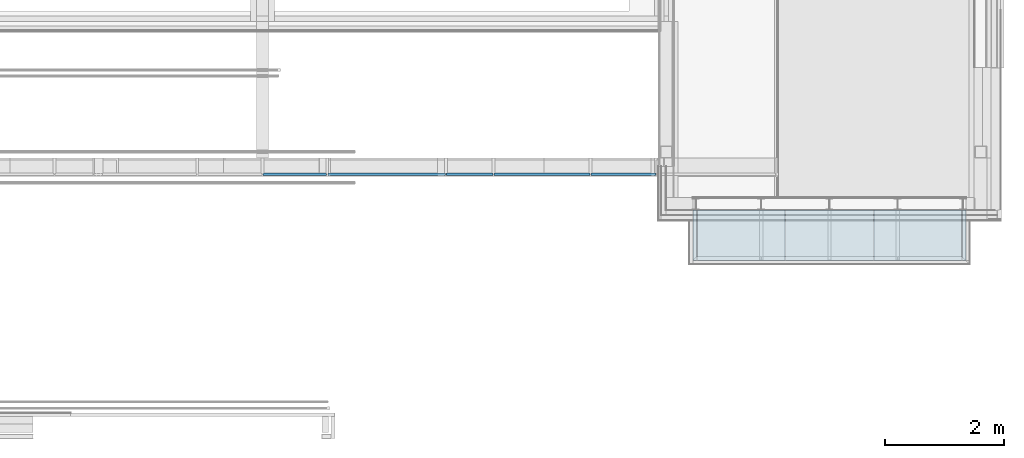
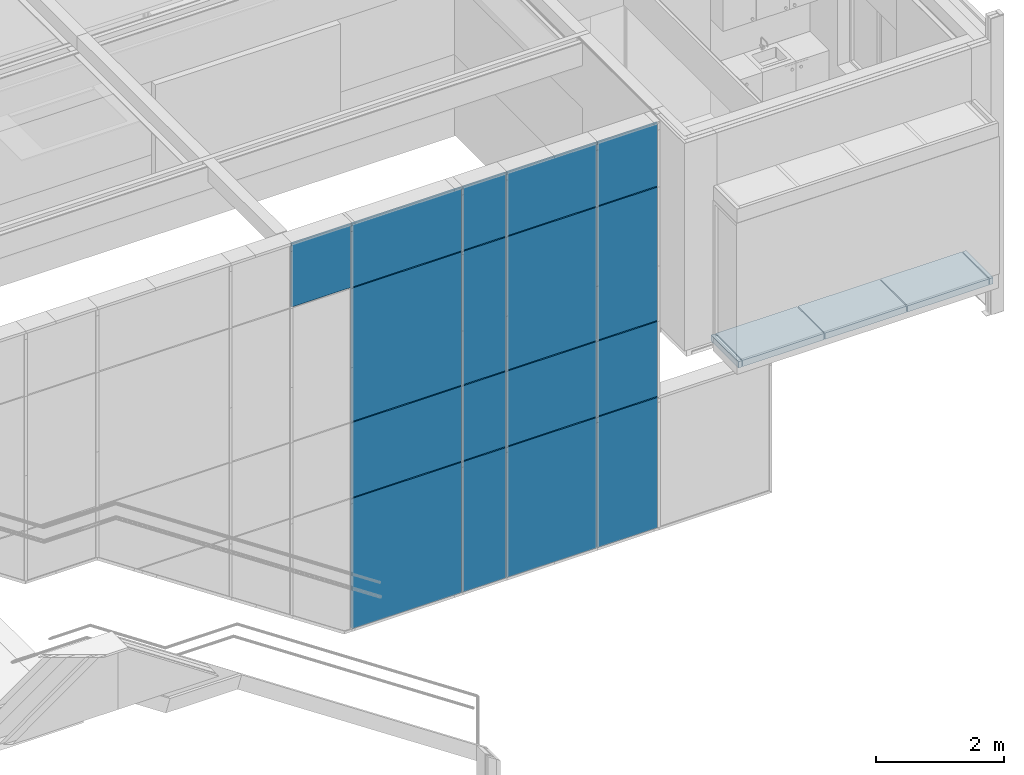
# One storey, part 37 of 137: 17 plates, 1 slab, 1 element without a shape of its own.
"""IFC2X3 building model written with IfcOpenShell, lengths in millimetres."""

import ifcopenshell
import ifcopenshell.guid

model = None  # the IFC model being written
_history = None  # IfcOwnerHistory: only IFC2X3 demands one
_inside = {}  # id of a spatial element -> (the spatial element, [elements in it])
_under = {}  # id of a project, library or spatial element -> (it, [spatial elements below it])
_declared = {}  # id of a project -> (the project, [libraries it declares])
_typed = {}  # id of a type object -> (the type object, [elements of that type])
_made_of = {}  # id of a material, layer set ... -> (it, [elements and type objects made of it])


def new_model(schema):
    """Start an empty IFC model of exactly this schema.

    Asked for "IFC4X3", IfcOpenShell would pick the latest addendum, in which some entities
    have other attributes; the version numbers below select the first issue.
    IFC2X3 requires an IfcOwnerHistory on every rooted entity: one is made here for all.
    """
    global model, _history
    if schema == "IFC4X3":
        model = ifcopenshell.file(schema_version=(4, 3, 0, 0))
    else:
        model = ifcopenshell.file(schema=schema)
    _inside.clear()
    _under.clear()
    _declared.clear()
    _typed.clear()
    _made_of.clear()
    _history = None
    if model.schema == "IFC2X3":
        org = make("IfcOrganization", Name="unknown")
        user = make(
            "IfcPersonAndOrganization",
            ThePerson=make("IfcPerson", FamilyName="unknown"),
            TheOrganization=org,
        )
        app = make(
            "IfcApplication",
            ApplicationDeveloper=org,
            Version="unknown",
            ApplicationFullName="unknown",
            ApplicationIdentifier="unknown",
        )
        _history = make(
            "IfcOwnerHistory",
            OwningUser=user,
            OwningApplication=app,
            ChangeAction="ADDED",
            CreationDate=0,
        )
    return model


def make(cls, **values):
    """One entity of the class cls with the attributes given. An attribute that is None is left unset."""
    return model.create_entity(
        cls, **{name: value for name, value in values.items() if value is not None}
    )


def entity(cls, *values):
    """Any entity or typed value of the class cls, its attributes in the order of the schema. None: left unset."""
    e = model.create_entity(cls)
    for i, value in enumerate(values):
        if value is not None:
            e[i] = value
    return e


def rooted(cls, **values):
    """An entity with a GlobalId (a new one), such as an element, a storey or a relation."""
    return make(cls, GlobalId=ifcopenshell.guid.new(), OwnerHistory=_history, **values)


def si_unit(unit_type, name, prefix=None):
    """IfcSIUnit, for example si_unit("LENGTHUNIT", "METRE", prefix="MILLI")."""
    return make("IfcSIUnit", UnitType=unit_type, Prefix=prefix, Name=name)


def converted_unit(unit_type, name, factor, base, dimensions=None, offset=None):
    """IfcConversionBasedUnit, such as the inch: factor (a typed value) times the base unit."""
    return make(
        "IfcConversionBasedUnit"
        if offset is None
        else "IfcConversionBasedUnitWithOffset",
        ConversionOffset=offset,
        Dimensions=None
        if dimensions is None
        else entity("IfcDimensionalExponents", *dimensions),
        UnitType=unit_type,
        Name=name,
        ConversionFactor=make(
            "IfcMeasureWithUnit", ValueComponent=factor, UnitComponent=base
        ),
    )


def derived_unit(unit_type, elements):
    """IfcDerivedUnit: a product of units, each with its exponent."""
    return make(
        "IfcDerivedUnit",
        Elements=[
            make("IfcDerivedUnitElement", Unit=unit, Exponent=power)
            for unit, power in elements
        ],
        UnitType=unit_type,
    )


def money_unit(currency):
    """IfcMonetaryUnit."""
    return make("IfcMonetaryUnit", Currency=currency)


def assignment(units):
    """IfcUnitAssignment: the units of a project."""
    return None if units is None else make("IfcUnitAssignment", Units=units)


def point(xyz):
    """IfcCartesianPoint."""
    return None if xyz is None else make("IfcCartesianPoint", Coordinates=xyz)


def direction(xyz):
    """IfcDirection."""
    return None if xyz is None else make("IfcDirection", DirectionRatios=xyz)


def frame(location, z_axis=None, x_axis=None):
    """IfcAxis2Placement3D, a coordinate frame: its origin and axes. An axis left out is left unset."""
    return make(
        "IfcAxis2Placement3D",
        Location=point(location),
        Axis=direction(z_axis),
        RefDirection=direction(x_axis),
    )


def origin_with_axes():
    """The frame at (0, 0, 0) with the z axis (0, 0, 1) and the x axis (1, 0, 0) written out."""
    return frame((0.0, 0.0, 0.0), z_axis=(0.0, 0.0, 1.0), x_axis=(1.0, 0.0, 0.0))


def place(relative_to, where):
    """IfcLocalPlacement: puts the frame where relative to a parent placement (None: the world)."""
    return make(
        "IfcLocalPlacement", PlacementRelTo=relative_to, RelativePlacement=where
    )


def context(
    kind, dimensions, precision=None, world=None, true_north=None, identifier=None
):
    """IfcGeometricRepresentationContext, for example the 3D "Model" context."""
    return make(
        "IfcGeometricRepresentationContext",
        ContextIdentifier=identifier,
        ContextType=kind,
        CoordinateSpaceDimension=dimensions,
        Precision=precision,
        WorldCoordinateSystem=world,
        TrueNorth=true_north,
    )


def subcontext(parent, identifier, kind, view, scale=None):
    """IfcGeometricRepresentationSubContext, for example "Body" below "Model"."""
    return make(
        "IfcGeometricRepresentationSubContext",
        ContextIdentifier=identifier,
        ContextType=kind,
        ParentContext=parent,
        TargetScale=scale,
        TargetView=view,
    )


def project(units=None, contexts=None):
    """IfcProject with its units and contexts."""
    return rooted(
        "IfcProject",
        Name="project",
        RepresentationContexts=contexts,
        UnitsInContext=assignment(units),
    )


def spatial(cls, under=None, at=None, **own):
    """A site, building, storey or space (cls), placed at a placement, below another one or the project."""
    s = rooted(cls, ObjectPlacement=at, **own)
    if under is not None:
        _under.setdefault(under.id(), (under, []))[1].append(s)
    return s


def faces_of(points, faces, orient=None, outer=None):
    """IfcFace entities. A face is a list of loops; a loop is a list of indices into points, from 0.

    orient and outer hold one flag for each loop. By default every Orientation is true, the
    first loop of a face is its IfcFaceOuterBound and the others are IfcFaceBound.
    """
    made = []
    for i, loops in enumerate(faces):
        bounds = []
        for j, loop in enumerate(loops):
            is_outer = j == 0 if outer is None else outer[i][j]
            bounds.append(
                make(
                    "IfcFaceOuterBound" if is_outer else "IfcFaceBound",
                    Bound=make("IfcPolyLoop", Polygon=[points[k] for k in loop]),
                    Orientation=True if orient is None else orient[i][j],
                )
            )
        made.append(make("IfcFace", Bounds=bounds))
    return made


def faceted_brep(points, faces, orient=None, outer=None, voids=None):
    """IfcFacetedBrep: a solid bounded by flat faces; with voids (closed shells), ...WithVoids."""
    shared = [point(p) for p in points]
    hull = make("IfcClosedShell", CfsFaces=faces_of(shared, faces, orient, outer))
    if voids is None:
        return make("IfcFacetedBrep", Outer=hull)
    return make(
        "IfcFacetedBrepWithVoids",
        Outer=hull,
        Voids=[
            make(cls, CfsFaces=faces_of(shared, fs, o, b)) for cls, fs, o, b in voids
        ],
    )


def shape(context_of_items, identifier, shape_type, items):
    """IfcShapeRepresentation: the items that make up one representation, for example the "Body"."""
    return make(
        "IfcShapeRepresentation",
        ContextOfItems=context_of_items,
        RepresentationIdentifier=identifier,
        RepresentationType=shape_type,
        Items=items,
    )


def material(Name=None, Category=None):
    """IfcMaterial."""
    return make("IfcMaterial", Name=Name, Category=Category)


def made_of(thing, what):
    """Note that an element or type object is made of a material, layer set ...; save() writes the relation."""
    if what is not None:
        _made_of.setdefault(what.id(), (what, []))[1].append(thing)
    return thing


def type_object(cls, material=None, **own):
    """A type object (cls), such as IfcWallType, which elements share."""
    return made_of(rooted(cls, **own), material)


def element(
    cls,
    number,
    at=None,
    inside=None,
    cuts=None,
    type_object=None,
    material=None,
    context=None,
    identifier="Body",
    shape_type=None,
    held_by="IfcProductDefinitionShape",
    body=None,
    shapes=None,
    **own,
):
    """One element of the class cls, such as IfcWall. Its Tag is "e" and its number.

    at: its placement. inside: the storey or other place that contains it. cuts: it is an
    opening in that element (IfcRelVoidsElement). A single representation is given by context,
    identifier, shape_type and body (its items); several are given by shapes. held_by: the class
    of the entity that holds the representations. save() writes the other relations.
    """
    e = rooted(cls, Tag="e%d" % number, ObjectPlacement=at, **own)
    if body is not None:
        shapes = [shape(context, identifier, shape_type, body)]
    if shapes is not None:
        e.Representation = make(held_by, Representations=shapes)
    if inside is not None:
        _inside.setdefault(inside.id(), (inside, []))[1].append(e)
    if cuts is not None:
        rooted(
            "IfcRelVoidsElement", RelatingBuildingElement=cuts, RelatedOpeningElement=e
        )
    if type_object is not None:
        _typed.setdefault(type_object.id(), (type_object, []))[1].append(e)
    return made_of(e, material)


def aggregate(whole, parts):
    """IfcRelAggregates: a whole, such as a stair, and the parts it consists of."""
    return rooted("IfcRelAggregates", RelatingObject=whole, RelatedObjects=parts)


def save(model, path):
    """Write the relations noted so far, then the file.

    IfcRelAggregates (storeys below a building ...), IfcRelContainedInSpatialStructure (elements
    in a storey), IfcRelDefinesByType, IfcRelAssociatesMaterial and IfcRelDeclares: one each for
    every whole, place, type object, material and project.
    """
    for whole, parts in _under.values():
        aggregate(whole, parts)
    for where, things in _inside.values():
        rooted(
            "IfcRelContainedInSpatialStructure",
            RelatedElements=things,
            RelatingStructure=where,
        )
    for kind, things in _typed.values():
        rooted("IfcRelDefinesByType", RelatedObjects=things, RelatingType=kind)
    for what, things in _made_of.values():
        rooted("IfcRelAssociatesMaterial", RelatedObjects=things, RelatingMaterial=what)
    for by, libraries in _declared.values():
        rooted("IfcRelDeclares", RelatingContext=by, RelatedDefinitions=libraries)
    model.write(path)


model = new_model("IFC2X3")

# Units and contexts
model_context = context("Model", 3, precision=0.01, world=origin_with_axes(), true_north=direction((0.0, 1.0)))
body_context = subcontext(model_context, "Body", "Model", "MODEL_VIEW")
ifc_project = project(units=[si_unit("LENGTHUNIT", "METRE", prefix="MILLI"), si_unit("AREAUNIT", "SQUARE_METRE"), si_unit("VOLUMEUNIT", "CUBIC_METRE"), converted_unit("PLANEANGLEUNIT", "DEGREE", entity("IfcPlaneAngleMeasure", 0.0174532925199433), si_unit("PLANEANGLEUNIT", "RADIAN"), dimensions=[0, 0, 0, 0, 0, 0, 0]), money_unit("EUR"), converted_unit("TIMEUNIT", "Year", entity("IfcTimeMeasure", 31556926.0), si_unit("TIMEUNIT", "SECOND"), dimensions=[0, 0, 1, 0, 0, 0, 0]), si_unit("MASSUNIT", "GRAM", prefix="KILO"), si_unit("THERMODYNAMICTEMPERATUREUNIT", "DEGREE_CELSIUS"), si_unit("LUMINOUSINTENSITYUNIT", "LUMEN"), si_unit("ENERGYUNIT", "JOULE", prefix="MEGA"), derived_unit("THERMALCONDUCTANCEUNIT", [(si_unit("POWERUNIT", "WATT"), 1), (si_unit("LENGTHUNIT", "METRE"), -1), (si_unit("THERMODYNAMICTEMPERATUREUNIT", "KELVIN"), -1)]), derived_unit("SPECIFICHEATCAPACITYUNIT", [(si_unit("ENERGYUNIT", "JOULE"), 1), (si_unit("MASSUNIT", "GRAM", prefix="KILO"), -1), (si_unit("THERMODYNAMICTEMPERATUREUNIT", "KELVIN"), -1)]), derived_unit("MASSDENSITYUNIT", [(si_unit("MASSUNIT", "GRAM", prefix="KILO"), 1), (si_unit("VOLUMEUNIT", "CUBIC_METRE"), -1)])], contexts=[model_context])

# Site, building, storey
site_placement = place(None, origin_with_axes())
site = spatial("IfcSite", under=ifc_project, at=site_placement, Name="Site", CompositionType="ELEMENT")
building_placement = place(site_placement, origin_with_axes())
building = spatial("IfcBuilding", under=site, at=building_placement, Name="Naam gebouw", CompositionType="ELEMENT")
storey_placement = place(building_placement, frame((0.0, 0.0, 3960.0), z_axis=(0.0, 0.0, 1.0), x_axis=(1.0, 0.0, 0.0)))
storey = spatial("IfcBuildingStorey", under=building, at=storey_placement, Name="1e verdieping", CompositionType="ELEMENT", Elevation=3960.0)

# Slab
ifc_material_1 = material(Name="Beton gewapend C vloer")
slab_type = type_object("IfcSlabType", Name="Beton gewapend C vloer 120", PredefinedType="NOTDEFINED")
slab_placement = place(storey_placement, frame((24949.99903943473, 3599.999999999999, -100.0000000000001), z_axis=(0.0, 0.0, 1.0), x_axis=(1.0, 0.0, 0.0)))
element("IfcSlab", 1, at=slab_placement, inside=storey, type_object=slab_type, material=ifc_material_1, Name="f2- Met cement gebonden producten (alle vulmiddelen)_Vloer-x", PredefinedType="NOTDEFINED", context=body_context, shape_type="Brep", body=[
    faceted_brep([(0.0, -850.0000000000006, 0.0), (62.5, -850.0000000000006, 0.0), (62.5, 0.0, 0.0), (0.0, 0.0, 0.0), (0.0, -850.0000000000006, -120.0000000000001), (62.5, -850.0000000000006, -120.0000000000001), (62.5, 0.0, -120.0000000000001), (0.0, 0.0, -120.0000000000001)], [[[0, 1, 2, 3]], [[4, 5, 1, 0]], [[5, 6, 2, 1]], [[3, 2, 6, 7]], [[0, 3, 7, 4]], [[7, 6, 5, 4]]]),
    faceted_brep([(3052.500960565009, -850.0000000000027, 0.0), (4522.500960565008, -850.0000000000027, 0.0), (4522.500960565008, 0.0, 0.0), (3052.500960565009, 0.0, 0.0), (3052.500960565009, -850.0000000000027, -120.0000000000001), (4522.500960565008, -850.0000000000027, -120.0000000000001), (4522.500960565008, 0.0, -120.0000000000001), (3052.500960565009, 0.0, -120.0000000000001)], [[[0, 1, 2, 3]], [[4, 5, 1, 0]], [[5, 6, 2, 1]], [[3, 2, 6, 7]], [[4, 0, 3, 7]], [[7, 6, 5, 4]]]),
    faceted_brep([(4600.000960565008, 0.0, -120.0000000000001), (4537.500960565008, 0.0, -120.0000000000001), (4537.500960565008, 0.0, 0.0), (4600.000960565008, 0.0, 0.0), (4600.000960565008, -850.0000000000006, -120.0000000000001), (4537.500960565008, -850.0000000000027, -120.0000000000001), (4537.500960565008, -850.0000000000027, 0.0), (4600.000960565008, -850.0000000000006, 0.0)], [[[0, 1, 2, 3]], [[4, 5, 1, 0]], [[5, 6, 2, 1]], [[3, 2, 6, 7]], [[3, 7, 4, 0]], [[7, 6, 5, 4]]]),
    faceted_brep([(3037.500960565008, 0.0, -120.0000000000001), (1562.499999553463, 0.0, -120.0000000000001), (1562.499999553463, 0.0, 0.0), (3037.500960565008, 0.0, 0.0), (3037.500960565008, -850.0000000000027, -120.0000000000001), (1562.499999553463, -850.0000000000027, -120.0000000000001), (1562.499999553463, -850.0000000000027, 0.0), (3037.500960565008, -850.0000000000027, 0.0)], [[[0, 1, 2, 3]], [[4, 5, 1, 0]], [[5, 6, 2, 1]], [[3, 2, 6, 7]], [[4, 0, 3, 7]], [[7, 6, 5, 4]]]),
    faceted_brep([(1547.499999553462, 0.0, -120.0000000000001), (77.50000000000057, 0.0, -120.0000000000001), (77.50000000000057, 0.0, 0.0), (1547.499999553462, 0.0, 0.0), (1547.499999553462, -850.0000000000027, -120.0000000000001), (77.50000000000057, -850.0000000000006, -120.0000000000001), (77.50000000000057, -850.0000000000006, 0.0), (1547.499999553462, -850.0000000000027, 0.0)], [[[0, 1, 2, 3]], [[4, 5, 1, 0]], [[5, 6, 2, 1]], [[3, 2, 6, 7]], [[4, 0, 3, 7]], [[7, 6, 5, 4]]]),
])

# Curtain wall, plates
curtain_wall_type = type_object("IfcCurtainWallType", Name="Curtain Wall Type", PredefinedType="NOTDEFINED")
curtain_wall_placement = place(storey_placement, frame((8473.014787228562, 4364.43626274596, -3949.999921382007), z_axis=(0.0, 0.0, 1.0), x_axis=(1.0, 0.0, 0.0)))
curtain_wall = element("IfcCurtainWall", 2, at=curtain_wall_placement, inside=storey, type_object=curtain_wall_type, Name="21_Vliesgevel-x")
ifc_material_2 = material(Name="Glas")
plate_type_1 = type_object("IfcPlateType", Name="Main Panel 843 x 85 x 42", PredefinedType="CURTAIN_PANEL")
plate_1_placement = place(curtain_wall_placement, frame((13942.57372489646, -161.4362627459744, 1560.62496564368), z_axis=(0.0, 0.0, 1.0), x_axis=(-1.0, 0.0, 0.0)))
plate_1 = element("IfcPlate", 3, at=plate_1_placement, type_object=plate_type_1, material=ifc_material_2, Name="o GLAS_Paneel-x", ObjectType="CURTAIN_PANEL", context=body_context, shape_type="Brep", body=[
    faceted_brep([(-797.3480015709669, -21.00000000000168, 964.375059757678), (-27.36793324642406, -21.0000000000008, 964.375059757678), (-27.36793324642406, 20.99999999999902, 964.375059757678), (-797.3480015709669, 20.99999999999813, 964.375059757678), (-797.3480015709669, -21.00000000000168, 879.3748127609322), (-797.3480393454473, -21.00000000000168, -1525.624945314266), (-27.36793324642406, -21.0000000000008, -1525.624945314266), (815.5932982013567, -21.0000000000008, -1525.624945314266), (815.5932982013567, -21.0000000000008, 879.3748127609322), (815.5932982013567, -21.0000000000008, 964.375059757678), (815.5932982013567, 20.99999999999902, 964.375059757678), (815.5932982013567, 20.99999999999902, 879.3748127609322), (815.5932982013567, 20.99999999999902, -1525.624945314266), (-27.36793324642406, 20.99999999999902, -1525.624945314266), (-797.3480393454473, 20.99999999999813, -1525.624945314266), (-797.3480015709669, 20.99999999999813, 879.3748127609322)], [[[0, 1, 2, 3]], [[0, 4, 5, 6, 7, 8, 9, 1]], [[1, 9, 10, 2]], [[3, 2, 10, 11, 12, 13, 14, 15]], [[4, 0, 3, 15]], [[5, 4, 15, 14]], [[6, 5, 14, 13]], [[7, 6, 13, 12]], [[8, 7, 12, 11]], [[9, 8, 11, 10]]]),
])
plate_type_2 = type_object("IfcPlateType", Name="Main Panel 43 x 85 x 42", PredefinedType="CURTAIN_PANEL")
plate_2_placement = place(curtain_wall_placement, frame((11298.16488823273, -161.4362627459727, 1501.999978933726), z_axis=(0.0, 0.0, 1.0), x_axis=(-1.0, 0.0, 0.0)))
plate_2 = element("IfcPlate", 4, at=plate_2_placement, type_object=plate_type_2, material=ifc_material_2, Name="o GLAS_Paneel-x", ObjectType="CURTAIN_PANEL", context=body_context, shape_type="Brep", body=[
    faceted_brep([(-1008.815533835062, -21.00000000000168, 1023.000046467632), (-871.7767484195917, -21.0000000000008, 1023.000046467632), (-871.7767484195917, 20.99999999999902, 1023.000046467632), (-1008.815533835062, 20.99999999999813, 1023.000046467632), (-1008.815533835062, -21.00000000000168, 937.9997994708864), (-1008.815533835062, -21.00000000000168, -1466.999958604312), (-871.7767484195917, -21.0000000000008, -1466.999958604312), (928.2232447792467, -20.99999999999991, -1466.999958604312), (971.1845380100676, -20.99999999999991, -1466.999958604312), (971.1845380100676, -20.99999999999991, 937.9997994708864), (971.1845380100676, -20.99999999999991, 1023.000046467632), (928.2232447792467, -20.99999999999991, 1023.000046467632), (928.2232447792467, 20.99999999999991, 1023.000046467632), (971.1845380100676, 20.99999999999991, 1023.000046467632), (971.1845380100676, 20.99999999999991, 937.9997994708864), (971.1845380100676, 20.99999999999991, -1466.999958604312), (928.2232447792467, 20.99999999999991, -1466.999958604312), (-871.7767484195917, 20.99999999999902, -1466.999958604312), (-1008.815533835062, 20.99999999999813, -1466.999958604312), (-1008.815533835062, 20.99999999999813, 937.9997994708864)], [[[0, 1, 2, 3]], [[0, 4, 5, 6, 7, 8, 9, 10, 11, 1]], [[1, 11, 12, 2]], [[3, 2, 12, 13, 14, 15, 16, 17, 18, 19]], [[4, 0, 3, 19]], [[5, 4, 19, 18]], [[6, 5, 18, 17]], [[7, 6, 17, 16]], [[8, 7, 16, 15]], [[9, 8, 15, 14]], [[10, 9, 14, 13]], [[11, 10, 13, 12]]]),
])
plate_type_3 = type_object("IfcPlateType", Name="Main Panel 843 x 1430 x 42", PredefinedType="CURTAIN_PANEL")
plate_3_placement = place(curtain_wall_placement, frame((13945.6146035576, -161.4362627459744, 3259.999976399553), z_axis=(0.0, 0.0, 1.0), x_axis=(-1.0, 0.0, 0.0)))
plate_3 = element("IfcPlate", 5, at=plate_3_placement, type_object=plate_type_3, material=ifc_material_2, Name="o GLAS_Paneel-x", ObjectType="CURTAIN_PANEL", context=body_context, shape_type="Brep", body=[
    faceted_brep([(-794.3071243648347, -21.00000000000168, 714.99995816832), (-24.32703091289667, -21.0000000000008, 714.99995816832), (-24.32703091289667, 20.99999999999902, 714.99995816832), (-794.3071243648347, 20.99999999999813, 714.99995816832), (-794.3071243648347, -21.00000000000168, -714.9999470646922), (-24.32703091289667, -21.0000000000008, -714.9999470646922), (818.6341664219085, -21.0000000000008, -714.9999470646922), (818.6341664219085, -21.0000000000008, 714.99995816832), (818.6341664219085, 20.99999999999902, 714.99995816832), (818.6341664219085, 20.99999999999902, -714.9999470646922), (-24.32703091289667, 20.99999999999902, -714.9999470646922), (-794.3071243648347, 20.99999999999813, -714.9999470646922)], [[[0, 1, 2, 3]], [[0, 4, 5, 6, 7, 1]], [[1, 7, 8, 2]], [[3, 2, 8, 9, 10, 11]], [[4, 0, 3, 11]], [[5, 4, 11, 10]], [[6, 5, 10, 9]], [[7, 6, 9, 8]]]),
])
plate_type_4 = type_object("IfcPlateType", Name="Main Panel 43 x 1430 x 42", PredefinedType="CURTAIN_PANEL")
plate_4_placement = place(curtain_wall_placement, frame((11293.46101743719, -161.4362627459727, 3259.999976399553), z_axis=(0.0, 0.0, 1.0), x_axis=(-1.0, 0.0, 0.0)))
plate_4 = element("IfcPlate", 6, at=plate_4_placement, type_object=plate_type_4, material=ifc_material_2, Name="o GLAS_Paneel-x", ObjectType="CURTAIN_PANEL", context=body_context, shape_type="Brep", body=[
    faceted_brep([(-1013.519397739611, -21.00000000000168, 714.9999456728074), (-876.4806145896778, -21.0000000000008, 714.9999456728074), (-876.4806145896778, 20.99999999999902, 714.9999456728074), (-1013.519397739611, 20.99999999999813, 714.9999456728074), (-1013.519397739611, -21.00000000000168, -714.9999505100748), (-876.4806145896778, -21.0000000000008, -714.9999505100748), (923.5193826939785, -20.99999999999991, -714.9999505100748), (966.4806648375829, -20.99999999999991, -714.9999505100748), (966.4806350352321, -20.99999999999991, 714.9999456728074), (923.5193826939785, -20.99999999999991, 714.9999456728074), (923.5193826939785, 20.99999999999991, 714.9999456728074), (966.4806350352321, 20.99999999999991, 714.9999456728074), (966.4806648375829, 20.99999999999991, -714.9999505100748), (923.5193826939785, 20.99999999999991, -714.9999505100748), (-876.4806145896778, 20.99999999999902, -714.9999505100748), (-1013.519397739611, 20.99999999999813, -714.9999505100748)], [[[0, 1, 2, 3]], [[0, 4, 5, 6, 7, 8, 9, 1]], [[1, 9, 10, 2]], [[3, 2, 10, 11, 12, 13, 14, 15]], [[4, 0, 3, 15]], [[5, 4, 15, 14]], [[6, 5, 14, 13]], [[7, 6, 13, 12]], [[8, 7, 12, 11]], [[9, 8, 11, 10]]]),
])
plate_type_5 = type_object("IfcPlateType", Name="Main Panel 843 x 1500 x 42", PredefinedType="CURTAIN_PANEL")
plate_5_placement = place(curtain_wall_placement, frame((13942.57372328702, -161.4362627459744, 5210.624882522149), z_axis=(0.0, 0.0, 1.0), x_axis=(-1.0, 0.0, 0.0)))
plate_5 = element("IfcPlate", 7, at=plate_5_placement, type_object=plate_type_5, material=ifc_material_2, Name="o GLAS_Paneel-x", ObjectType="CURTAIN_PANEL", context=body_context, shape_type="Brep", body=[
    faceted_brep([(-797.347990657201, -21.00000000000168, 1329.375023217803), (-27.36793200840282, -21.0000000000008, 1329.375023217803), (-27.36793200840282, 20.99999999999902, 1329.375023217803), (-797.347990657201, 20.99999999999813, 1329.375023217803), (-797.347990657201, -21.00000000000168, -170.625111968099), (-797.347990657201, -21.00000000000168, -1215.624945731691), (-27.36793200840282, -21.0000000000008, -1215.624945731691), (815.5932806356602, -21.0000000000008, -1215.624945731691), (815.5932806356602, -21.0000000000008, -170.625111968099), (815.5932806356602, -21.0000000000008, 1329.375023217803), (815.5932806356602, 20.99999999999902, 1329.375023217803), (815.5932806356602, 20.99999999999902, -170.625111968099), (815.5932806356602, 20.99999999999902, -1215.624945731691), (-27.36793200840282, 20.99999999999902, -1215.624945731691), (-797.347990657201, 20.99999999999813, -1215.624945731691), (-797.347990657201, 20.99999999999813, -170.625111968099)], [[[0, 1, 2, 3]], [[0, 4, 5, 6, 7, 8, 9, 1]], [[1, 9, 10, 2]], [[3, 2, 10, 11, 12, 13, 14, 15]], [[4, 0, 3, 15]], [[5, 4, 15, 14]], [[6, 5, 14, 13]], [[7, 6, 13, 12]], [[8, 7, 12, 11]], [[9, 8, 11, 10]]]),
])
plate_type_6 = type_object("IfcPlateType", Name="Main Panel 780 x 85 x 42", PredefinedType="CURTAIN_PANEL")
plate_6_placement = place(curtain_wall_placement, frame((12716.98042332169, -161.4362627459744, 1658.333276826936), z_axis=(0.0, 0.0, 1.0), x_axis=(-1.0, 0.0, 0.0)))
plate_6 = element("IfcPlate", 8, at=plate_6_placement, type_object=plate_type_6, material=ifc_material_2, Name="o GLAS_Paneel-x", ObjectType="CURTAIN_PANEL", context=body_context, shape_type="Brep", body=[
    faceted_brep([(-390.0000057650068, -21.0000000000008, 866.6667485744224), (390.0000076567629, -21.0000000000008, 866.6667485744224), (390.0000076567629, 20.99999999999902, 866.6667485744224), (-390.0000057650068, 20.99999999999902, 866.6667485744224), (-390.0000057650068, -21.0000000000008, 781.6665015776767), (-390.0000057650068, -21.0000000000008, -1623.333256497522), (390.0000076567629, -21.0000000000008, -1623.333256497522), (390.0000076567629, -21.0000000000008, 781.6665015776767), (390.0000076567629, 20.99999999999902, 781.6665015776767), (390.0000076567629, 20.99999999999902, -1623.333256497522), (-390.0000057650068, 20.99999999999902, -1623.333256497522), (-390.0000057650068, 20.99999999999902, 781.6665015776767)], [[[0, 1, 2, 3]], [[0, 4, 5, 6, 7, 1]], [[1, 7, 8, 2]], [[3, 2, 8, 9, 10, 11]], [[4, 0, 3, 11]], [[5, 4, 11, 10]], [[6, 5, 10, 9]], [[7, 6, 9, 8]]]),
])
plate_type_7 = type_object("IfcPlateType", Name="Main Panel 788 x 40 x 42", PredefinedType="CURTAIN_PANEL")
plate_7_placement = place(curtain_wall_placement, frame((12617.60060163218, -161.4362627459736, 5518.678049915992), z_axis=(0.0, 0.0, 1.0), x_axis=(-1.0, 0.0, 0.0)))
plate_7 = element("IfcPlate", 9, at=plate_7_placement, type_object=plate_type_7, material=ifc_material_2, Name="o GLAS_Paneel-x", ObjectType="CURTAIN_PANEL", context=body_context, shape_type="Brep", body=[
    faceted_brep([(-489.3798432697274, -20.99999999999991, 1021.32185582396), (298.1394569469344, -20.99999999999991, 1021.32185582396), (298.1394569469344, 20.99999999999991, 1021.32185582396), (-489.3798432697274, 20.99999999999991, 1021.32185582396), (-489.3798432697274, -20.99999999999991, -478.6782793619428), (-489.3798432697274, -20.99999999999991, -1523.678113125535), (290.6201765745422, -20.99999999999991, -1523.678113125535), (290.6201765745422, -20.99999999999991, -478.6782793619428), (290.6201765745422, -20.99999999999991, 981.0345446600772), (298.1394569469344, -20.99999999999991, 981.0345446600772), (298.1394569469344, 20.99999999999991, 981.0345446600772), (290.6201765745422, 20.99999999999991, 981.0345446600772), (290.6201765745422, 20.99999999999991, -478.6782793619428), (290.6201765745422, 20.99999999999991, -1523.678113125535), (-489.3798432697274, 20.99999999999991, -1523.678113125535), (-489.3798432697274, 20.99999999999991, -478.6782793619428)], [[[0, 1, 2, 3]], [[0, 4, 5, 6, 7, 8, 9, 1]], [[1, 9, 10, 2]], [[3, 2, 10, 11, 12, 13, 14, 15]], [[4, 0, 3, 15]], [[5, 4, 15, 14]], [[6, 5, 14, 13]], [[7, 6, 13, 12]], [[8, 7, 12, 11]], [[9, 8, 11, 10]]]),
])
plate_type_8 = type_object("IfcPlateType", Name="Main Panel 43 x 1500 x 42", PredefinedType="CURTAIN_PANEL")
plate_8_placement = place(curtain_wall_placement, frame((11390.78448787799, -161.4362627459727, 5338.155590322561), z_axis=(0.0, 0.0, 1.0), x_axis=(-1.0, 0.0, 0.0)))
plate_8 = element("IfcPlate", 10, at=plate_8_placement, type_object=plate_type_8, material=ifc_material_2, Name="o GLAS_Paneel-x", ObjectType="CURTAIN_PANEL", context=body_context, shape_type="Brep", body=[
    faceted_brep([(-916.1959164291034, -21.00000000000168, 1201.84431541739), (-779.1571472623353, -21.0000000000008, 1201.84431541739), (-779.1571472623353, 20.99999999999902, 1201.84431541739), (-916.1959164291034, 20.99999999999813, 1201.84431541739), (-916.1959164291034, -21.00000000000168, 1161.557004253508), (-916.1959164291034, -21.00000000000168, -298.1558197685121), (-916.1959164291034, -21.00000000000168, -1343.155653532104), (-779.1571472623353, -21.0000000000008, -1343.155653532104), (1020.842854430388, -20.99999999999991, -1343.155653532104), (1063.804104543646, -20.99999999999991, -1343.155653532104), (1063.804104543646, -20.99999999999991, -298.1558197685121), (1063.804104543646, -20.99999999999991, 1201.84431541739), (1020.842854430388, -20.99999999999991, 1201.84431541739), (1020.842854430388, 20.99999999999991, 1201.84431541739), (1063.804104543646, 20.99999999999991, 1201.84431541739), (1063.804104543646, 20.99999999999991, -298.1558197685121), (1063.804104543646, 20.99999999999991, -1343.155653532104), (1020.842854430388, 20.99999999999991, -1343.155653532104), (-779.1571472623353, 20.99999999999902, -1343.155653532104), (-916.1959164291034, 20.99999999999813, -1343.155653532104), (-916.1959164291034, 20.99999999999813, -298.1558197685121), (-916.1959164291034, 20.99999999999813, 1161.557004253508)], [[[0, 1, 2, 3]], [[0, 4, 5, 6, 7, 8, 9, 10, 11, 12, 1]], [[1, 12, 13, 2]], [[3, 2, 13, 14, 15, 16, 17, 18, 19, 20, 21]], [[4, 0, 3, 21]], [[5, 4, 21, 20]], [[6, 5, 20, 19]], [[7, 6, 19, 18]], [[8, 7, 18, 17]], [[9, 8, 17, 16]], [[10, 9, 16, 15]], [[11, 10, 15, 14]], [[12, 11, 14, 13]]]),
])
plate_type_9 = type_object("IfcPlateType", Name="Main Panel 780 x 1430 x 42", PredefinedType="CURTAIN_PANEL")
plate_9_placement = place(curtain_wall_placement, frame((12716.98042443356, -161.4362627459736, 3259.999976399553), z_axis=(0.0, 0.0, 1.0), x_axis=(-1.0, 0.0, 0.0)))
plate_9 = element("IfcPlate", 11, at=plate_9_placement, type_object=plate_type_9, material=ifc_material_2, Name="o GLAS_Paneel-x", ObjectType="CURTAIN_PANEL", context=body_context, shape_type="Brep", body=[
    faceted_brep([(-390.0000127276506, -20.99999999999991, 714.9999582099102), (390.0000163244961, -20.99999999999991, 714.9999582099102), (390.0000163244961, 20.99999999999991, 714.9999582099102), (-390.0000127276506, 20.99999999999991, 714.9999582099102), (-390.0000127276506, -20.99999999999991, -714.9999582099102), (390.0000163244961, -20.99999999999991, -714.9999582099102), (390.0000163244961, 20.99999999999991, -714.9999582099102), (-390.0000127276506, 20.99999999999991, -714.9999582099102)], [[[0, 1, 2, 3]], [[0, 4, 5, 1]], [[1, 5, 6, 2]], [[3, 2, 6, 7]], [[4, 0, 3, 7]], [[5, 4, 7, 6]]]),
])
plate_type_10 = type_object("IfcPlateType", Name="Main Panel 1010 x 85 x 42", PredefinedType="CURTAIN_PANEL")
plate_10_placement = place(curtain_wall_placement, frame((15468.47469516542, -161.4362627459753, 1666.111077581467), z_axis=(0.0, 0.0, 1.0), x_axis=(-1.0, 0.0, 0.0)))
plate_10 = element("IfcPlate", 12, at=plate_10_placement, type_object=plate_type_10, material=ifc_material_2, Name="o GLAS_Paneel-x", ObjectType="CURTAIN_PANEL", context=body_context, shape_type="Brep", body=[
    faceted_brep([(-388.1812636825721, -21.00000000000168, 858.8889478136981), (-301.4669618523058, -21.0000000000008, 858.8889478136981), (-301.4669618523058, 20.99999999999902, 858.8889478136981), (-388.1812636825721, 20.99999999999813, 858.8889478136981), (-388.1812636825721, -21.00000000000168, 843.8888908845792), (-378.181263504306, -21.00000000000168, 843.8888908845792), (-378.181263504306, -21.00000000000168, 773.8887007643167), (-378.1812257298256, -21.00000000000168, -1631.111058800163), (-301.4669618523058, -21.0000000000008, -1631.111021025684), (708.5529255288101, -21.0000000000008, -1631.111021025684), (708.5529633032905, -21.0000000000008, 773.8887007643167), (708.5529633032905, -21.0000000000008, 858.8889478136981), (708.5529633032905, 20.99999999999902, 858.8889478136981), (708.5529633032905, 20.99999999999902, 773.8887007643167), (708.5529255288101, 20.99999999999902, -1631.111021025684), (-301.4669618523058, 20.99999999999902, -1631.111021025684), (-378.1812257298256, 20.99999999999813, -1631.111058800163), (-378.181263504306, 20.99999999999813, 773.8887007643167), (-378.181263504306, 20.99999999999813, 843.8888908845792), (-388.1812636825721, 20.99999999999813, 843.8888908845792)], [[[0, 1, 2, 3]], [[0, 4, 5, 6, 7, 8, 9, 10, 11, 1]], [[1, 11, 12, 2]], [[3, 2, 12, 13, 14, 15, 16, 17, 18, 19]], [[4, 0, 3, 19]], [[5, 4, 19, 18]], [[6, 5, 18, 17]], [[7, 6, 17, 16]], [[8, 7, 16, 15]], [[9, 8, 15, 14]], [[10, 9, 14, 13]], [[11, 10, 13, 12]]]),
])
plate_type_11 = type_object("IfcPlateType", Name="Main Panel 843 x 125 x 42", PredefinedType="CURTAIN_PANEL")
plate_11_placement = place(curtain_wall_placement, frame((13942.57372257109, -161.4362627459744, 7291.249917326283), z_axis=(0.0, 0.0, 1.0), x_axis=(-1.0, 0.0, 0.0)))
plate_11 = element("IfcPlate", 13, at=plate_11_placement, type_object=plate_type_11, material=ifc_material_2, Name="o GLAS_Paneel-x", ObjectType="CURTAIN_PANEL", context=body_context, shape_type="Brep", body=[
    faceted_brep([(-797.3480209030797, -21.00000000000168, 473.750103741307), (-27.36791103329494, -21.0000000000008, 473.750103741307), (-27.36791103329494, 20.99999999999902, 473.750103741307), (-797.3480209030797, 20.99999999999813, 473.750103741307), (-797.3480209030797, -21.00000000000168, 348.7498472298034), (-797.3480209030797, -21.00000000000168, -731.2499980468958), (-27.36791103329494, -21.0000000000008, -731.2499980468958), (815.5932799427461, -21.0000000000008, -731.2499980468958), (815.5933042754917, -21.0000000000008, 348.7498472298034), (815.5933042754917, -21.0000000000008, 473.750103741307), (815.5933042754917, 20.99999999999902, 473.750103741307), (815.5933042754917, 20.99999999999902, 348.7498472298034), (815.5932799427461, 20.99999999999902, -731.2499980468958), (-27.36791103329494, 20.99999999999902, -731.2499980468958), (-797.3480209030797, 20.99999999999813, -731.2499980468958), (-797.3480209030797, 20.99999999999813, 348.7498472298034)], [[[0, 1, 2, 3]], [[0, 4, 5, 6, 7, 8, 9, 1]], [[1, 9, 10, 2]], [[3, 2, 10, 11, 12, 13, 14, 15]], [[4, 0, 3, 15]], [[5, 4, 15, 14]], [[6, 5, 14, 13]], [[7, 6, 13, 12]], [[8, 7, 12, 11]], [[9, 8, 11, 10]]]),
])
plate_type_12 = type_object("IfcPlateType", Name="Main Panel 1070 x 125 x 42", PredefinedType="CURTAIN_PANEL")
plate_12_placement = place(curtain_wall_placement, frame((9771.980058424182, -161.4362627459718, 7329.999900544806), z_axis=(0.0, 0.0, 1.0), x_axis=(-1.0, 0.0, 0.0)))
plate_12 = element("IfcPlate", 14, at=plate_12_placement, type_object=plate_type_12, material=ifc_material_2, Name="o GLAS_Paneel-x", ObjectType="CURTAIN_PANEL", context=body_context, shape_type="Brep", body=[
    faceted_brep([(-535.0003282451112, -20.99999999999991, 435.0001240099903), (535.0003425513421, -20.99999999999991, 435.0001240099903), (535.0003425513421, 20.99999999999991, 435.0001240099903), (-535.0003282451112, 20.99999999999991, 435.0001240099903), (-535.0003282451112, -20.99999999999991, 309.9998713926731), (-535.000309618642, -20.99999999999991, -769.9999918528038), (535.0003052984, -20.99999999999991, -769.9999918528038), (535.0003239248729, -20.99999999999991, 309.9998713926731), (535.0003239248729, 20.99999999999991, 309.9998713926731), (535.0003052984, 20.99999999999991, -769.9999918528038), (-535.000309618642, 20.99999999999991, -769.9999918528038), (-535.0003282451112, 20.99999999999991, 309.9998713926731)], [[[0, 1, 2, 3]], [[0, 4, 5, 6, 7, 1]], [[1, 7, 8, 2]], [[3, 2, 8, 9, 10, 11]], [[4, 0, 3, 11]], [[5, 4, 11, 10]], [[6, 5, 10, 9]], [[7, 6, 9, 8]]]),
])
plate_type_13 = type_object("IfcPlateType", Name="Main Panel 1010 x 125 x 42", PredefinedType="CURTAIN_PANEL")
plate_13_placement = place(curtain_wall_placement, frame((15429.07590896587, -161.4362627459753, 7291.249919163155), z_axis=(0.0, 0.0, 1.0), x_axis=(-1.0, 0.0, 0.0)))
plate_13 = element("IfcPlate", 15, at=plate_13_placement, type_object=plate_type_13, material=ifc_material_2, Name="o GLAS_Paneel-x", ObjectType="CURTAIN_PANEL", context=body_context, shape_type="Brep", body=[
    faceted_brep([(-416.9103466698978, -21.00000000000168, 473.7501053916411), (-340.8657306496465, -21.0000000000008, 473.7501053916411), (-340.8657306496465, 20.99999999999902, 473.7501053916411), (-416.9103466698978, 20.99999999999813, 473.7501053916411), (-416.9103466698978, -21.00000000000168, 348.7498527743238), (-416.9103466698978, -21.00000000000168, -731.249991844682), (-340.8657306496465, -21.0000000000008, -731.249991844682), (669.154183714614, -21.0000000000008, -731.250010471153), (669.1541650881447, -21.0000000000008, 348.7498527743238), (669.1541650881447, -21.0000000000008, 473.7501053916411), (669.1541650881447, 20.99999999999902, 473.7501053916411), (669.1541650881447, 20.99999999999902, 348.7498527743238), (669.154183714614, 20.99999999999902, -731.250010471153), (-340.8657306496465, 20.99999999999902, -731.249991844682), (-416.9103466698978, 20.99999999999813, -731.249991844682), (-416.9103466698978, 20.99999999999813, 348.7498527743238)], [[[0, 1, 2, 3]], [[0, 4, 5, 6, 7, 8, 9, 1]], [[1, 9, 10, 2]], [[3, 2, 10, 11, 12, 13, 14, 15]], [[4, 0, 3, 15]], [[5, 4, 15, 14]], [[6, 5, 14, 13]], [[7, 6, 13, 12]], [[8, 7, 12, 11]], [[9, 8, 11, 10]]]),
])
plate_type_14 = type_object("IfcPlateType", Name="Main Panel 43 x 125 x 42", PredefinedType="CURTAIN_PANEL")
plate_14_placement = place(curtain_wall_placement, frame((11298.1648976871, -161.4362627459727, 7267.999927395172), z_axis=(0.0, 0.0, 1.0), x_axis=(-1.0, 0.0, 0.0)))
plate_14 = element("IfcPlate", 16, at=plate_14_placement, type_object=plate_type_14, material=ifc_material_2, Name="o GLAS_Paneel-x", ObjectType="CURTAIN_PANEL", context=body_context, shape_type="Brep", body=[
    faceted_brep([(-1008.815517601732, -21.00000000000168, 497.0001021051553), (-871.7767359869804, -21.0000000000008, 497.0001021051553), (-871.7767359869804, 20.99999999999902, 497.0001021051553), (-1008.815517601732, 20.99999999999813, 497.0001021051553), (-1008.815517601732, -21.00000000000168, 371.9998313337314), (-1008.815517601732, -21.00000000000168, -708.0000118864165), (-871.7767359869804, -21.0000000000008, -708.0000118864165), (928.223241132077, -20.99999999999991, -708.0000118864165), (971.184522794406, -20.99999999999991, -708.0000118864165), (971.1844929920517, -20.99999999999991, 371.9998313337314), (971.184522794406, -20.99999999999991, 497.0001021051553), (928.223241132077, -20.99999999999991, 497.0001021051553), (928.223241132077, 20.99999999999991, 497.0001021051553), (971.184522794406, 20.99999999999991, 497.0001021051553), (971.1844929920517, 20.99999999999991, 371.9998313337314), (971.184522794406, 20.99999999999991, -708.0000118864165), (928.223241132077, 20.99999999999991, -708.0000118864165), (-871.7767359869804, 20.99999999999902, -708.0000118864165), (-1008.815517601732, 20.99999999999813, -708.0000118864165), (-1008.815517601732, 20.99999999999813, 371.9998313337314)], [[[0, 1, 2, 3]], [[0, 4, 5, 6, 7, 8, 9, 10, 11, 1]], [[1, 11, 12, 2]], [[3, 2, 12, 13, 14, 15, 16, 17, 18, 19]], [[4, 0, 3, 19]], [[5, 4, 19, 18]], [[6, 5, 18, 17]], [[7, 6, 17, 16]], [[8, 7, 16, 15]], [[9, 8, 15, 14]], [[10, 9, 14, 13]], [[11, 10, 13, 12]]]),
])
plate_type_15 = type_object("IfcPlateType", Name="Main Panel 1010 x 1500 x 42", PredefinedType="CURTAIN_PANEL")
plate_15_placement = place(curtain_wall_placement, frame((15429.07590648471, -161.4362627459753, 5210.624882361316), z_axis=(0.0, 0.0, 1.0), x_axis=(-1.0, 0.0, 0.0)))
plate_15 = element("IfcPlate", 17, at=plate_15_placement, type_object=plate_type_15, material=ifc_material_2, Name="o GLAS_Paneel-x", ObjectType="CURTAIN_PANEL", context=body_context, shape_type="Brep", body=[
    faceted_brep([(-416.9103388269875, -21.00000000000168, 1329.375030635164), (-340.8657297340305, -21.0000000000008, 1329.375030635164), (-340.8657297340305, 20.99999999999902, 1329.375030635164), (-416.9103388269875, 20.99999999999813, 1329.375030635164), (-416.9103388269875, -21.00000000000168, -170.625118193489), (-416.9103388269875, -21.00000000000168, -1215.624961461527), (-340.8657297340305, -21.0000000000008, -1215.624961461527), (669.1541651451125, -21.0000000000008, -1215.624961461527), (669.1541651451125, -21.0000000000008, -170.625118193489), (669.1541651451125, -21.0000000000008, 1329.375030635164), (669.1541651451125, 20.99999999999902, 1329.375030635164), (669.1541651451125, 20.99999999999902, -170.625118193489), (669.1541651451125, 20.99999999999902, -1215.624961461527), (-340.8657297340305, 20.99999999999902, -1215.624961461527), (-416.9103388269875, 20.99999999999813, -1215.624961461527), (-416.9103388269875, 20.99999999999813, -170.625118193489)], [[[0, 1, 2, 3]], [[0, 4, 5, 6, 7, 8, 9, 1]], [[1, 9, 10, 2]], [[3, 2, 10, 11, 12, 13, 14, 15]], [[4, 0, 3, 15]], [[5, 4, 15, 14]], [[6, 5, 14, 13]], [[7, 6, 13, 12]], [[8, 7, 12, 11]], [[9, 8, 11, 10]]]),
])
plate_type_16 = type_object("IfcPlateType", Name="Main Panel 1010 x 1430 x 42", PredefinedType="CURTAIN_PANEL")
plate_16_placement = place(curtain_wall_placement, frame((16035.42771193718, -161.4362627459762, 2974.999988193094), z_axis=(0.0, 0.0, 1.0), x_axis=(-1.0, 0.0, 0.0)))
plate_16 = element("IfcPlate", 18, at=plate_16_placement, type_object=plate_type_16, material=ifc_material_2, Name="o GLAS_Paneel-x", ObjectType="CURTAIN_PANEL", context=body_context, shape_type="Brep", body=[
    faceted_brep([(189.4414426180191, -21.00000000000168, 999.9999056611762), (265.4860747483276, -21.0000000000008, 999.9999526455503), (265.4860747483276, 20.99999999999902, 999.9999526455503), (189.4414426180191, 20.99999999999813, 999.9999056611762), (189.4414426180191, -21.00000000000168, -429.9999619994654), (265.4860747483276, -21.0000000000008, -429.9999619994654), (1275.505967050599, -21.0000000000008, -429.9999619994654), (1275.505967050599, -21.0000000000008, 999.9999526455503), (1275.505967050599, 20.99999999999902, 999.9999526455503), (1275.505967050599, 20.99999999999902, -429.9999619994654), (265.4860747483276, 20.99999999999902, -429.9999619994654), (189.4414426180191, 20.99999999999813, -429.9999619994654)], [[[0, 1, 2, 3]], [[0, 4, 5, 6, 7, 1]], [[1, 7, 8, 2]], [[3, 2, 8, 9, 10, 11]], [[4, 0, 3, 11]], [[5, 4, 11, 10]], [[6, 5, 10, 9]], [[7, 6, 9, 8]]]),
])
plate_type_17 = type_object("IfcPlateType", Name="Main Panel 780 x 125 x 42", PredefinedType="CURTAIN_PANEL")
plate_17_placement = place(curtain_wall_placement, frame((12660.19195058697, -161.4362627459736, 7218.571331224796), z_axis=(0.0, 0.0, 1.0), x_axis=(-1.0, 0.0, 0.0)))
plate_17 = element("IfcPlate", 19, at=plate_17_placement, type_object=plate_type_17, material=ifc_material_2, Name="o GLAS_Paneel-x", ObjectType="CURTAIN_PANEL", context=body_context, shape_type="Brep", body=[
    faceted_brep([(-446.7884640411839, -20.99999999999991, 546.4286933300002), (333.2115417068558, -20.99999999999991, 546.4286933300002), (333.2115417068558, 20.99999999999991, 546.4286933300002), (-446.7884640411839, 20.99999999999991, 546.4286933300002), (-446.7884826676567, -20.99999999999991, 421.4284407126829), (-446.7884826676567, -20.99999999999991, -658.5714225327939), (333.2115417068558, -20.99999999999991, -658.5714225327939), (333.2115417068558, -20.99999999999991, 421.4284407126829), (333.2115417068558, 20.99999999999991, 421.4284407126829), (333.2115417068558, 20.99999999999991, -658.5714225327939), (-446.7884826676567, 20.99999999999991, -658.5714225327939), (-446.7884826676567, 20.99999999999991, 421.4284407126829)], [[[0, 1, 2, 3]], [[0, 4, 5, 6, 7, 1]], [[1, 7, 8, 2]], [[3, 2, 8, 9, 10, 11]], [[4, 0, 3, 11]], [[5, 4, 11, 10]], [[6, 5, 10, 9]], [[7, 6, 9, 8]]]),
])
aggregate(curtain_wall, [plate_2, plate_1, plate_3, plate_4, plate_5, plate_6, plate_9, plate_7, plate_8, plate_10, plate_11, plate_12, plate_13, plate_14, plate_15, plate_16, plate_17])

save(model, "model.ifc")
